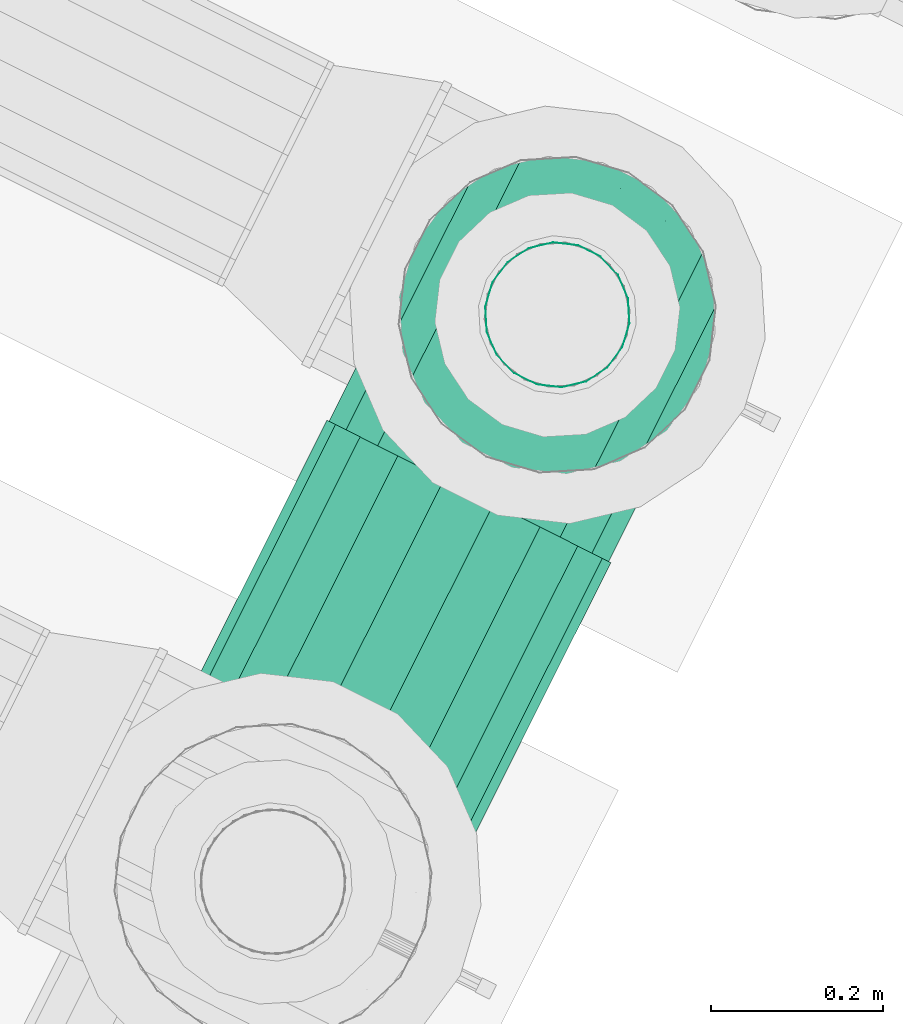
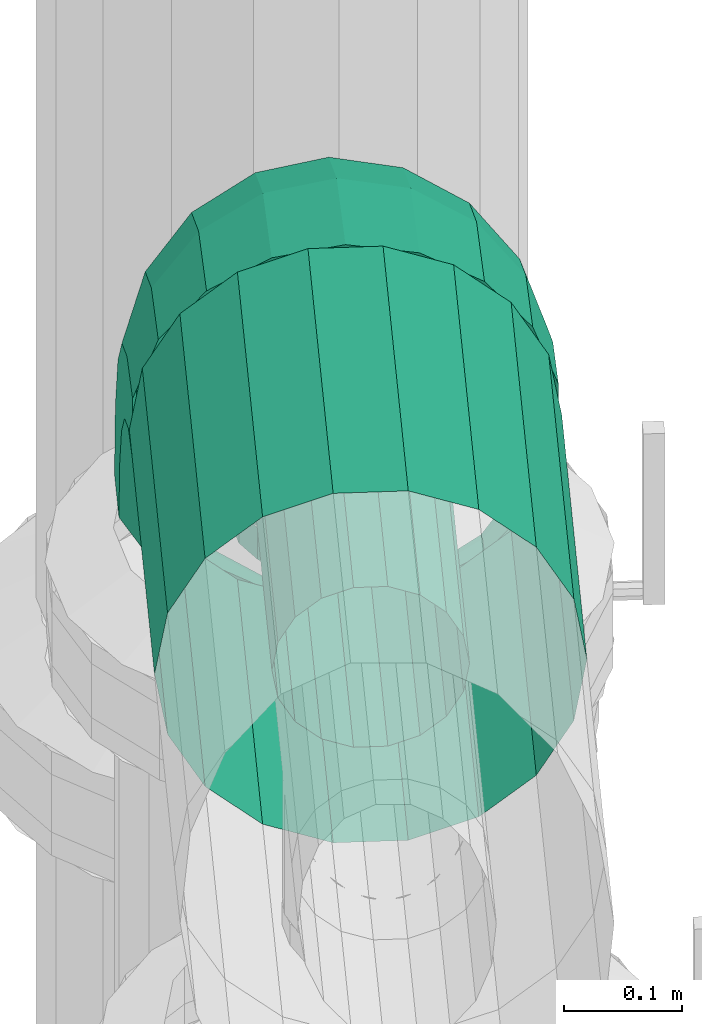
# One storey, part 136 of 152: 3 flow segments.
"""IFC2X3 building model written with IfcOpenShell, lengths in metres."""

from ifc_helpers import new_model, si_unit, derived_unit, direction, frame, origin, place, context, subcontext, project, spatial, face_set, surface_model, source, transform, mapped, material, type_object, type_shapes, element, save


model = new_model("IFC2X3")

# Units and contexts
model_context = context("Model", 3, precision=5.2338327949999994e-05, world=origin(), true_north=direction((0.0, 1.0)))
body_context = subcontext(model_context, "Body", "Model", "MODEL_VIEW")
ifc_project = project(units=[si_unit("LENGTHUNIT", "METRE"), si_unit("AREAUNIT", "SQUARE_METRE"), si_unit("VOLUMEUNIT", "CUBIC_METRE"), si_unit("MASSUNIT", "GRAM", prefix="KILO"), si_unit("PLANEANGLEUNIT", "RADIAN"), derived_unit("THERMALTRANSMITTANCEUNIT", [(si_unit("MASSUNIT", "GRAM", prefix="KILO"), 1), (si_unit("THERMODYNAMICTEMPERATUREUNIT", "KELVIN"), -1), (si_unit("TIMEUNIT", "SECOND"), -3)])], contexts=[model_context])

# Site, building, storey
site_placement = place(None, frame((0.0, 0.0, 0.0), z_axis=(0.0, 0.0, 1.0), x_axis=(0.8939966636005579, -0.4480736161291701, 0.0)))
site = spatial("IfcSite", under=ifc_project, at=site_placement, Name="Default", CompositionType="ELEMENT")
building_placement = place(site_placement, origin())
building = spatial("IfcBuilding", under=site, at=building_placement, CompositionType="ELEMENT")
storey_placement = place(building_placement, frame((0.0, 0.0, 2.7499999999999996)))
storey = spatial("IfcBuildingStorey", under=building, at=storey_placement, Name="1. Obergeschoss", CompositionType="ELEMENT", Elevation=2.7499999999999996)

# Flow segments
ifc_material = material(Name="IfcSurfaceStyle #9317")
distribution_element_type_1 = type_object("IfcDistributionElementType", Name="Rohrbogen 222471:Rohrbogen 222471", material=ifc_material)
shared_shape_1 = source(origin(), body_context, "Body", "SurfaceModel", [
    surface_model("IfcFaceBasedSurfaceModel", [(11.725814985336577, 7.411358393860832, 4.80664078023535), (11.69703399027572, 7.406283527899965, 4.80664078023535), (11.69703399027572, 7.391205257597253, 4.90184123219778), (11.725814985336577, 7.39603174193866, 4.903409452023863), (11.69703399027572, 7.3474464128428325, 4.9877228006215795), (11.725814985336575, 7.351552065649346, 4.9907057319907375), (11.697033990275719, 7.279290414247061, 5.055878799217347), (11.725814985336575, 7.28227334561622, 5.059984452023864), (11.697033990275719, 7.193408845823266, 5.099637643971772), (11.725814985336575, 7.194977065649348, 5.104464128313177), (11.69703399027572, 7.098208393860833, 5.114715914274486), (11.725814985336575, 7.0982083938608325, 5.119790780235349), (11.671724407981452, 7.3916710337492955, 4.80664078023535), (11.671724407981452, 7.377307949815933, 4.897325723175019), (11.671724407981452, 7.3356246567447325, 4.979133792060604), (11.671724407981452, 7.270701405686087, 5.04405704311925), (11.671724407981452, 7.188893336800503, 5.085740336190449), (11.671724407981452, 7.0982083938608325, 5.100103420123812), (11.652938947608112, 7.369283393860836, 4.80664078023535), (11.652938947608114, 7.356016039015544, 4.890407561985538), (11.652938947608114, 7.317512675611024, 4.965974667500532), (11.652938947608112, 7.257542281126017, 5.025945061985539), (11.652938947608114, 7.181975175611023, 5.06444842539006), (11.652938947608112, 7.0982083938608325, 5.077715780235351), (11.642943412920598, 7.341820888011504, 4.80664078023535), (11.642943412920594, 7.329897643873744, 4.881921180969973), (11.642943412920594, 7.295295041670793, 4.9498326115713), (11.642943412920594, 7.241400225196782, 5.003727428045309), (11.642943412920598, 7.173488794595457, 5.038330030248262), (11.642943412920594, 7.098208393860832, 5.05025327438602), (11.642943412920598, 7.312595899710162, 4.80664078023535), (11.642943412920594, 7.302103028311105, 4.872890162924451), (11.642943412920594, 7.271651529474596, 4.932654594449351), (11.642943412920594, 7.224222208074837, 4.980083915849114), (11.642943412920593, 7.164457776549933, 5.010535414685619), (11.642943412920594, 7.0982083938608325, 5.021028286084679), (11.652938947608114, 7.285133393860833, 4.80664078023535), (11.652938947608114, 7.275984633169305, 4.8644037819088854), (11.652938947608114, 7.249433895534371, 4.91651253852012), (11.652938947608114, 7.208080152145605, 4.957866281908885), (11.652938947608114, 7.155971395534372, 4.9844170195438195), (11.652938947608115, 7.098208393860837, 4.9935657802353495), (11.671724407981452, 7.262745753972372, 4.80664078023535), (11.671724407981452, 7.254692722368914, 4.857485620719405), (11.671724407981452, 7.231321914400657, 4.903353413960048), (11.671724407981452, 7.194921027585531, 4.9397543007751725), (11.671724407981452, 7.149053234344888, 4.963125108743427), (11.671724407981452, 7.098208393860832, 4.971178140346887), (11.69703399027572, 7.2481332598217, 4.80664078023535), (11.697033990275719, 7.240795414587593, 4.852970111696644), (11.697033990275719, 7.2195001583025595, 4.894764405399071), (11.697033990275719, 7.186332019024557, 4.927932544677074), (11.697033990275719, 7.144537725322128, 4.94922780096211), (11.69703399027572, 7.098208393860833, 4.956565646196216), (11.725814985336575, 7.243058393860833, 4.806640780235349), (11.725814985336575, 7.235968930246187, 4.851401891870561), (11.725814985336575, 7.215394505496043, 4.891781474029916), (11.725814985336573, 7.1833490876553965, 4.9238268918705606), (11.725814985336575, 7.142969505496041, 4.944401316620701), (11.725814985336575, 7.098208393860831, 4.951490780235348), (11.75459598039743, 7.248133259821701, 4.80664078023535), (11.75459598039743, 7.240795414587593, 4.852970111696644), (11.75459598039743, 7.2195001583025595, 4.894764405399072), (11.754595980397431, 7.186332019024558, 4.927932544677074), (11.75459598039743, 7.144537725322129, 4.949227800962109), (11.754595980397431, 7.098208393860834, 4.956565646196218), (11.779905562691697, 7.262745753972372, 4.80664078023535), (11.779905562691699, 7.254692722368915, 4.857485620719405), (11.779905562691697, 7.231321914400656, 4.903353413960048), (11.779905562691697, 7.194921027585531, 4.9397543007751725), (11.779905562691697, 7.149053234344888, 4.963125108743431), (11.779905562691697, 7.098208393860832, 4.971178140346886), (11.798691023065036, 7.28513339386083, 4.80664078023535), (11.798691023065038, 7.2759846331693, 4.8644037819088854), (11.798691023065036, 7.249433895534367, 4.916512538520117), (11.798691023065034, 7.2080801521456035, 4.957866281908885), (11.798691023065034, 7.15597139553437, 4.9844170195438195), (11.798691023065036, 7.098208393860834, 4.99356578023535), (11.808686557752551, 7.3125958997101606, 4.80664078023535), (11.808686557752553, 7.302103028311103, 4.872890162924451), (11.808686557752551, 7.271651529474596, 4.9326545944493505), (11.808686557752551, 7.224222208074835, 4.980083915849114), (11.808686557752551, 7.164457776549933, 5.010535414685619), (11.808686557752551, 7.098208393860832, 5.021028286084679), (11.808686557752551, 7.341820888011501, 4.80664078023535), (11.808686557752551, 7.329897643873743, 4.881921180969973), (11.808686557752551, 7.295295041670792, 4.9498326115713), (11.808686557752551, 7.24140022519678, 5.003727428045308), (11.808686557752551, 7.173488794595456, 5.03833003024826), (11.808686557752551, 7.098208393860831, 5.0502532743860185), (11.798691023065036, 7.369283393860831, 4.80664078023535), (11.798691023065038, 7.3560160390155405, 4.890407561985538), (11.798691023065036, 7.31751267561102, 4.965974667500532), (11.798691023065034, 7.257542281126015, 5.025945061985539), (11.798691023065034, 7.1819751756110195, 5.064448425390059), (11.798691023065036, 7.098208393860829, 5.077715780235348), (11.779905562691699, 7.3916710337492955, 4.80664078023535), (11.779905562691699, 7.377307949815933, 4.897325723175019), (11.779905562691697, 7.335624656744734, 4.979133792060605), (11.779905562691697, 7.270701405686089, 5.04405704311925), (11.779905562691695, 7.188893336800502, 5.085740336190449), (11.779905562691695, 7.0982083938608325, 5.100103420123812), (11.754595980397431, 7.406283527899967, 4.80664078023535), (11.754595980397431, 7.391205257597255, 4.90184123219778), (11.754595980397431, 7.347446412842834, 4.98772280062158), (11.754595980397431, 7.279290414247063, 5.055878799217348), (11.75459598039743, 7.193408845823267, 5.099637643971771), (11.75459598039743, 7.098208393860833, 5.114715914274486), (11.725814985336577, 7.511358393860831, 4.80664078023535), (11.662831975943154, 7.500252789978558, 4.80664078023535), (11.662831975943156, 7.4805753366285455, 4.9308793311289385), (11.725814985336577, 7.491137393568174, 4.934311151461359), (11.662831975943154, 7.423469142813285, 5.042956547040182), (11.725814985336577, 7.432453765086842, 5.049484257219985), (11.662831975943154, 7.334524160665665, 5.131901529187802), (11.725814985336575, 7.341051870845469, 5.140886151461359), (11.662831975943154, 7.222446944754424, 5.189007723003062), (11.725814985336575, 7.225878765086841, 5.199569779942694), (11.662831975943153, 7.098208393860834, 5.2086851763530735), (11.725814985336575, 7.098208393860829, 5.219790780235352), (11.607445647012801, 7.468275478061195, 4.80664078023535), (11.6074456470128, 7.450163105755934, 4.920997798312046), (11.6074456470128, 7.397598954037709, 5.024160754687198), (11.607445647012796, 7.315728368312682, 5.106031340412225), (11.607445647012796, 7.212565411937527, 5.15859549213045), (11.6074456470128, 7.098208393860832, 5.17670786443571), (11.56633640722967, 7.419283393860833, 4.80664078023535), (11.56633640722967, 7.4035688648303, 4.905858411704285), (11.566336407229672, 7.35796352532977, 4.995363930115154), (11.566336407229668, 7.28693154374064, 5.066395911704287), (11.566336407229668, 7.1974260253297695, 5.112001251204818), (11.566336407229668, 7.098208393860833, 5.127715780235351), (11.544462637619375, 7.359185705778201, 4.80664078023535), (11.544462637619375, 7.346412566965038, 4.887287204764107), (11.544462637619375, 7.309343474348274, 4.96003939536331), (11.544462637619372, 7.251607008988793, 5.01777586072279), (11.544462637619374, 7.178854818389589, 5.054844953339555), (11.544462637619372, 7.0982083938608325, 5.067618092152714), (11.544462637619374, 7.2952310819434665, 4.80664078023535), (11.544462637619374, 7.2855881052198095, 4.8675241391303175), (11.544462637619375, 7.257603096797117, 4.922447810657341), (11.544462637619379, 7.214015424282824, 4.966035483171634), (11.544462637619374, 7.1590917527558, 4.994020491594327), (11.544462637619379, 7.098208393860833, 5.003663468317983), (11.566336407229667, 7.235133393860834, 4.80664078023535), (11.566336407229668, 7.228431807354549, 4.848952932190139), (11.566336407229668, 7.208983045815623, 4.8871232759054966), (11.566336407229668, 7.17869088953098, 4.917415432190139), (11.566336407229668, 7.140520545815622, 4.936864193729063), (11.566336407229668, 7.0982083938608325, 4.943565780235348), (11.607445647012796, 7.186141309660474, 4.80664078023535), (11.607445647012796, 7.181837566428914, 4.833813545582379), (11.607445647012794, 7.169347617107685, 4.858326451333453), (11.607445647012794, 7.149894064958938, 4.877780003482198), (11.607445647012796, 7.125381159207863, 4.89026995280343), (11.6074456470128, 7.098208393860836, 4.894573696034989), (11.662831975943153, 7.154163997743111, 4.80664078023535), (11.66283197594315, 7.151425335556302, 4.823932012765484), (11.66283197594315, 7.143477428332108, 4.83953065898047), (11.66283197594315, 7.131098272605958, 4.851909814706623), (11.662831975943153, 7.115499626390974, 4.859857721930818), (11.662831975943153, 7.098208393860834, 4.862596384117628), (11.725814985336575, 7.14305839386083, 4.80664078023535), (11.725814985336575, 7.140863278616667, 4.820500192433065), (11.725814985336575, 7.134492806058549, 4.833002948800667), (11.725814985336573, 7.124570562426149, 4.842925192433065), (11.725814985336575, 7.1120678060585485, 4.849295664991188), (11.725814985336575, 7.098208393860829, 4.851490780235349), (11.788797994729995, 7.15416399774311, 4.80664078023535), (11.788797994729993, 7.151425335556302, 4.823932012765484), (11.788797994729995, 7.14347742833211, 4.839530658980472), (11.788797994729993, 7.131098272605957, 4.851909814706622), (11.788797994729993, 7.1154996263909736, 4.85985772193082), (11.788797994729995, 7.098208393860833, 4.8625963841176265), (11.844184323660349, 7.186141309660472, 4.806640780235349), (11.844184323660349, 7.181837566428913, 4.8338135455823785), (11.844184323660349, 7.169347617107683, 4.858326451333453), (11.844184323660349, 7.149894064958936, 4.877780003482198), (11.84418432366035, 7.125381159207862, 4.890269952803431), (11.844184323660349, 7.0982083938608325, 4.894573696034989), (11.885293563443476, 7.23513339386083, 4.80664078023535), (11.885293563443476, 7.2284318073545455, 4.848952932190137), (11.885293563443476, 7.208983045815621, 4.887123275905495), (11.885293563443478, 7.178690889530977, 4.917415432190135), (11.885293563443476, 7.140520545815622, 4.936864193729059), (11.885293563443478, 7.098208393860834, 4.943565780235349), (11.907167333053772, 7.295231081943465, 4.806640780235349), (11.907167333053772, 7.285588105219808, 4.8675241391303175), (11.907167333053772, 7.257603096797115, 4.922447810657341), (11.907167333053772, 7.214015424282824, 4.966035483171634), (11.907167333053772, 7.159091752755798, 4.994020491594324), (11.907167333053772, 7.0982083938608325, 5.003663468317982), (11.907167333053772, 7.3591857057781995, 4.80664078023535), (11.907167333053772, 7.346412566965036, 4.887287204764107), (11.907167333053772, 7.309343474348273, 4.96003939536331), (11.907167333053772, 7.251607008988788, 5.017775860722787), (11.907167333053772, 7.178854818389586, 5.054844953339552), (11.907167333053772, 7.098208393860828, 5.067618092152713), (11.885293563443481, 7.419283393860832, 4.80664078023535), (11.885293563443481, 7.403568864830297, 4.905858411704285), (11.885293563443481, 7.357963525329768, 4.995363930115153), (11.885293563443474, 7.286931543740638, 5.066395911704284), (11.885293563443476, 7.197426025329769, 5.112001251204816), (11.885293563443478, 7.0982083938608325, 5.127715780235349), (11.84418432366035, 7.468275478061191, 4.806640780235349), (11.84418432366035, 7.450163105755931, 4.920997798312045), (11.84418432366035, 7.397598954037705, 5.024160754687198), (11.84418432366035, 7.315728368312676, 5.106031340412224), (11.84418432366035, 7.212565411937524, 5.158595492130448), (11.84418432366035, 7.098208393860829, 5.176707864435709), (11.788797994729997, 7.500252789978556, 4.80664078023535), (11.788797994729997, 7.480575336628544, 4.9308793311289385), (11.788797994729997, 7.423469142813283, 5.042956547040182), (11.788797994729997, 7.334524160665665, 5.131901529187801), (11.788797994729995, 7.222446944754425, 5.189007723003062), (11.788797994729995, 7.098208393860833, 5.208685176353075)], [face_set([[[0, 1, 2, 3]], [[3, 2, 4, 5]], [[5, 4, 6, 7]], [[7, 6, 8, 9]], [[9, 8, 10, 11]], [[1, 12, 13, 2]], [[2, 13, 14, 4]], [[4, 14, 15, 6]], [[6, 15, 16, 8]], [[8, 16, 17, 10]], [[12, 18, 19, 13]], [[13, 19, 20, 14]], [[14, 20, 21, 15]], [[15, 21, 22, 16]], [[16, 22, 23, 17]], [[18, 24, 25, 19]], [[19, 25, 26, 20]], [[20, 26, 27, 21]], [[21, 27, 28, 22]], [[22, 28, 29, 23]], [[24, 30, 31, 25]], [[25, 31, 32, 26]], [[26, 32, 33, 27]], [[27, 33, 34, 28]], [[28, 34, 35, 29]], [[30, 36, 37, 31]], [[31, 37, 38, 32]], [[32, 38, 39, 33]], [[33, 39, 40, 34]], [[34, 40, 41, 35]], [[36, 42, 43, 37]], [[37, 43, 44, 38]], [[38, 44, 45, 39]], [[39, 45, 46, 40]], [[40, 46, 47, 41]], [[42, 48, 49, 43]], [[43, 49, 50, 44]], [[44, 50, 51, 45]], [[45, 51, 52, 46]], [[46, 52, 53, 47]], [[48, 54, 55, 49]], [[49, 55, 56, 50]], [[50, 56, 57, 51]], [[51, 57, 58, 52]], [[52, 58, 59, 53]], [[54, 60, 61, 55]], [[55, 61, 62, 56]], [[56, 62, 63, 57]], [[57, 63, 64, 58]], [[58, 64, 65, 59]], [[60, 66, 67, 61]], [[61, 67, 68, 62]], [[62, 68, 69, 63]], [[63, 69, 70, 64]], [[64, 70, 71, 65]], [[66, 72, 73, 67]], [[67, 73, 74, 68]], [[68, 74, 75, 69]], [[69, 75, 76, 70]], [[70, 76, 77, 71]], [[72, 78, 79, 73]], [[73, 79, 80, 74]], [[74, 80, 81, 75]], [[75, 81, 82, 76]], [[76, 82, 83, 77]], [[78, 84, 85, 79]], [[79, 85, 86, 80]], [[80, 86, 87, 81]], [[81, 87, 88, 82]], [[82, 88, 89, 83]], [[84, 90, 91, 85]], [[85, 91, 92, 86]], [[86, 92, 93, 87]], [[87, 93, 94, 88]], [[88, 94, 95, 89]], [[90, 96, 97, 91]], [[91, 97, 98, 92]], [[92, 98, 99, 93]], [[93, 99, 100, 94]], [[94, 100, 101, 95]], [[96, 102, 103, 97]], [[97, 103, 104, 98]], [[98, 104, 105, 99]], [[99, 105, 106, 100]], [[100, 106, 107, 101]], [[102, 0, 3, 103]], [[103, 3, 5, 104]], [[104, 5, 7, 105]], [[105, 7, 9, 106]], [[106, 9, 11, 107]], [[108, 109, 110, 111]], [[111, 110, 112, 113]], [[113, 112, 114, 115]], [[115, 114, 116, 117]], [[117, 116, 118, 119]], [[109, 120, 121, 110]], [[110, 121, 122, 112]], [[112, 122, 123, 114]], [[114, 123, 124, 116]], [[116, 124, 125, 118]], [[120, 126, 127, 121]], [[121, 127, 128, 122]], [[122, 128, 129, 123]], [[123, 129, 130, 124]], [[124, 130, 131, 125]], [[126, 132, 133, 127]], [[127, 133, 134, 128]], [[128, 134, 135, 129]], [[129, 135, 136, 130]], [[130, 136, 137, 131]], [[132, 138, 139, 133]], [[133, 139, 140, 134]], [[134, 140, 141, 135]], [[135, 141, 142, 136]], [[136, 142, 143, 137]], [[138, 144, 145, 139]], [[139, 145, 146, 140]], [[140, 146, 147, 141]], [[141, 147, 148, 142]], [[142, 148, 149, 143]], [[144, 150, 151, 145]], [[145, 151, 152, 146]], [[146, 152, 153, 147]], [[147, 153, 154, 148]], [[148, 154, 155, 149]], [[150, 156, 157, 151]], [[151, 157, 158, 152]], [[152, 158, 159, 153]], [[153, 159, 160, 154]], [[154, 160, 161, 155]], [[156, 162, 163, 157]], [[157, 163, 164, 158]], [[158, 164, 165, 159]], [[159, 165, 166, 160]], [[160, 166, 167, 161]], [[162, 168, 169, 163]], [[163, 169, 170, 164]], [[164, 170, 171, 165]], [[165, 171, 172, 166]], [[166, 172, 173, 167]], [[168, 174, 175, 169]], [[169, 175, 176, 170]], [[170, 176, 177, 171]], [[171, 177, 178, 172]], [[172, 178, 179, 173]], [[174, 180, 181, 175]], [[175, 181, 182, 176]], [[176, 182, 183, 177]], [[177, 183, 184, 178]], [[178, 184, 185, 179]], [[180, 186, 187, 181]], [[181, 187, 188, 182]], [[182, 188, 189, 183]], [[183, 189, 190, 184]], [[184, 190, 191, 185]], [[186, 192, 193, 187]], [[187, 193, 194, 188]], [[188, 194, 195, 189]], [[189, 195, 196, 190]], [[190, 196, 197, 191]], [[192, 198, 199, 193]], [[193, 199, 200, 194]], [[194, 200, 201, 195]], [[195, 201, 202, 196]], [[196, 202, 203, 197]], [[198, 204, 205, 199]], [[199, 205, 206, 200]], [[200, 206, 207, 201]], [[201, 207, 208, 202]], [[202, 208, 209, 203]], [[204, 210, 211, 205]], [[205, 211, 212, 206]], [[206, 212, 213, 207]], [[207, 213, 214, 208]], [[208, 214, 215, 209]], [[210, 108, 111, 211]], [[211, 111, 113, 212]], [[212, 113, 115, 213]], [[213, 115, 117, 214]], [[214, 117, 119, 215]]])]),
])
type_shapes(distribution_element_type_1, [shared_shape_1])
flow_segment_1_placement = place(storey_placement, frame((0.0, 0.0, -2.7499999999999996)))
element("IfcFlowSegment", 1, at=flow_segment_1_placement, inside=storey, type_object=distribution_element_type_1, material=ifc_material, Name="Rohrbogen", ObjectType="Rohrbogen", context=body_context, shape_type="MappedRepresentation", body=[
    mapped(shared_shape_1, transform((0.0, 0.0, 0.0), scale=1.0)),
])
distribution_element_type_2 = type_object("IfcDistributionElementType", Name="Stahlrohr nach DIN 2448 222500:Stahlrohr nach DIN 2448 222500", material=ifc_material)
shared_shape_2 = source(origin(), body_context, "Body", "SurfaceModel", [
    surface_model("IfcFaceBasedSurfaceModel", [(11.809964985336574, 6.734748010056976, 5.035640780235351), (11.80489011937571, 6.734748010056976, 5.006859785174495), (11.80489011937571, 7.0982083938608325, 5.006859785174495), (11.809964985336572, 7.0982083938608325, 5.035640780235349), (11.790277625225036, 6.734748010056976, 4.981550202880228), (11.790277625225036, 7.0982083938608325, 4.981550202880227), (11.767889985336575, 6.734748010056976, 4.96276474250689), (11.767889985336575, 7.0982083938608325, 4.962764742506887), (11.740427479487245, 6.734748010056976, 4.952769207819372), (11.740427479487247, 7.0982083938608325, 4.952769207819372), (11.711202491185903, 6.734748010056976, 4.952769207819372), (11.711202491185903, 7.0982083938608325, 4.952769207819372), (11.683739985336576, 6.734748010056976, 4.962764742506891), (11.683739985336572, 7.0982083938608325, 4.962764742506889), (11.661352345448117, 6.734748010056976, 4.981550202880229), (11.661352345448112, 7.0982083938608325, 4.981550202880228), (11.646739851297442, 6.734748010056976, 5.0068597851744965), (11.646739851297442, 7.0982083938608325, 5.006859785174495), (11.641664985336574, 6.734748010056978, 5.035640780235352), (11.641664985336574, 7.0982083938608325, 5.03564078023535), (11.646739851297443, 6.734748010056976, 5.064421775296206), (11.646739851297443, 7.0982083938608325, 5.064421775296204), (11.661352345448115, 6.734748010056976, 5.089731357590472), (11.661352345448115, 7.0982083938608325, 5.0897313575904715), (11.683739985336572, 6.734748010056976, 5.108516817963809), (11.683739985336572, 7.0982083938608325, 5.108516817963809), (11.711202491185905, 6.734748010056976, 5.118512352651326), (11.711202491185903, 7.0982083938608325, 5.118512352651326), (11.740427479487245, 6.734748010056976, 5.118512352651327), (11.740427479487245, 7.0982083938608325, 5.118512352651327), (11.767889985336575, 6.734748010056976, 5.108516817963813), (11.767889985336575, 7.0982083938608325, 5.10851681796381), (11.790277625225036, 6.734748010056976, 5.089731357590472), (11.790277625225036, 7.0982083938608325, 5.0897313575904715), (11.804890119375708, 6.734748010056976, 5.064421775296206), (11.804890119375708, 7.0982083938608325, 5.064421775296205), (11.909964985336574, 6.734748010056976, 5.035640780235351), (11.8988593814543, 6.734748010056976, 4.9726577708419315), (11.898859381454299, 7.0982083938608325, 4.972657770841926), (11.909964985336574, 7.0982083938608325, 5.035640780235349), (11.866882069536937, 6.734748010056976, 4.917271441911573), (11.866882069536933, 7.0982083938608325, 4.917271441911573), (11.817889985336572, 6.734748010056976, 4.876162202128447), (11.817889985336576, 7.0982083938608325, 4.876162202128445), (11.75779229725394, 6.734748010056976, 4.854288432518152), (11.75779229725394, 7.0982083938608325, 4.854288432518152), (11.693837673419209, 6.734748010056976, 4.8542884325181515), (11.693837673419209, 7.0982083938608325, 4.8542884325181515), (11.633739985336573, 6.734748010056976, 4.876162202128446), (11.633739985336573, 7.0982083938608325, 4.876162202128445), (11.584747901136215, 6.734748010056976, 4.917271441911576), (11.584747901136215, 7.0982083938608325, 4.917271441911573), (11.552770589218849, 6.734748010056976, 4.972657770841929), (11.552770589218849, 7.0982083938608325, 4.972657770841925), (11.541664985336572, 6.734748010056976, 5.035640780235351), (11.541664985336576, 7.0982083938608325, 5.035640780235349), (11.552770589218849, 6.734748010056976, 5.098623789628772), (11.552770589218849, 7.0982083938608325, 5.098623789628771), (11.584747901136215, 6.734748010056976, 5.154010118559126), (11.584747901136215, 7.0982083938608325, 5.154010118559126), (11.633739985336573, 6.734748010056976, 5.1951193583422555), (11.633739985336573, 7.0982083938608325, 5.195119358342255), (11.69383767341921, 6.734748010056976, 5.216993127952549), (11.693837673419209, 7.0982083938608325, 5.216993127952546), (11.75779229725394, 6.734748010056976, 5.2169931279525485), (11.75779229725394, 7.0982083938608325, 5.216993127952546), (11.817889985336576, 6.734748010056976, 5.195119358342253), (11.817889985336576, 7.0982083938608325, 5.195119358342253), (11.866882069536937, 6.734748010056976, 5.1540101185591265), (11.866882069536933, 7.0982083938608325, 5.154010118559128), (11.898859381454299, 6.734748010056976, 5.098623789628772), (11.898859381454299, 7.0982083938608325, 5.098623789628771)], [face_set([[[0, 1, 2, 3]], [[1, 4, 5, 2]], [[4, 6, 7, 5]], [[6, 8, 9, 7]], [[8, 10, 11, 9]], [[10, 12, 13, 11]], [[12, 14, 15, 13]], [[14, 16, 17, 15]], [[16, 18, 19, 17]], [[18, 20, 21, 19]], [[20, 22, 23, 21]], [[22, 24, 25, 23]], [[24, 26, 27, 25]], [[26, 28, 29, 27]], [[28, 30, 31, 29]], [[30, 32, 33, 31]], [[32, 34, 35, 33]], [[34, 0, 3, 35]], [[36, 37, 38, 39]], [[37, 40, 41, 38]], [[40, 42, 43, 41]], [[42, 44, 45, 43]], [[44, 46, 47, 45]], [[46, 48, 49, 47]], [[48, 50, 51, 49]], [[50, 52, 53, 51]], [[52, 54, 55, 53]], [[54, 56, 57, 55]], [[56, 58, 59, 57]], [[58, 60, 61, 59]], [[60, 62, 63, 61]], [[62, 64, 65, 63]], [[64, 66, 67, 65]], [[66, 68, 69, 67]], [[68, 70, 71, 69]], [[70, 36, 39, 71]]])]),
])
type_shapes(distribution_element_type_2, [shared_shape_2])
flow_segment_2_placement = place(storey_placement, frame((0.0, 0.0, -2.7499999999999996)))
element("IfcFlowSegment", 2, at=flow_segment_2_placement, inside=storey, type_object=distribution_element_type_2, material=ifc_material, Name="Stahlrohr nach DIN 2448", ObjectType="Stahlrohr nach DIN 2448", context=body_context, shape_type="MappedRepresentation", body=[
    mapped(shared_shape_2, transform((0.0, 0.0, 0.0), scale=1.0)),
])
distribution_element_type_3 = type_object("IfcDistributionElementType", Name="Stahlrohr nach DIN 2448 249099:Stahlrohr nach DIN 2448 249099", material=ifc_material)
shared_shape_3 = source(origin(), body_context, "Body", "SurfaceModel", [
    surface_model("IfcFaceBasedSurfaceModel", [(11.641664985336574, 7.3272083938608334, 4.80664078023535), (11.646739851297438, 7.355989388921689, 4.80664078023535), (11.646739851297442, 7.35598938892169, 4.773303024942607), (11.641664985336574, 7.3272083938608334, 4.773303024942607), (11.661352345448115, 7.381298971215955, 4.80664078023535), (11.661352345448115, 7.381298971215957, 4.773303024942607), (11.683739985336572, 7.400084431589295, 4.80664078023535), (11.68373998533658, 7.400084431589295, 4.773303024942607), (11.711202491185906, 7.410079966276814, 4.80664078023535), (11.711202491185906, 7.410079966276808, 4.773303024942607), (11.740427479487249, 7.410079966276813, 4.80664078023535), (11.74042747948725, 7.410079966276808, 4.773303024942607), (11.767889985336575, 7.4000844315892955, 4.80664078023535), (11.767889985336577, 7.40008443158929, 4.773303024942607), (11.790277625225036, 7.3812989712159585, 4.80664078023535), (11.79027762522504, 7.381298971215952, 4.773303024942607), (11.80489011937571, 7.355989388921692, 4.80664078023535), (11.80489011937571, 7.355989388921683, 4.773303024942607), (11.80996498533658, 7.327208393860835, 4.806640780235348), (11.809964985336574, 7.327208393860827, 4.773303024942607), (11.80489011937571, 7.298427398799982, 4.80664078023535), (11.80489011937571, 7.298427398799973, 4.773303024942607), (11.790277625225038, 7.273117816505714, 4.80664078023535), (11.790277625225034, 7.273117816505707, 4.773303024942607), (11.767889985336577, 7.254332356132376, 4.80664078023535), (11.767889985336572, 7.254332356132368, 4.773303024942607), (11.740427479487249, 7.244336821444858, 4.80664078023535), (11.74042747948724, 7.244336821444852, 4.773303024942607), (11.711202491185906, 7.2443368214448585, 4.80664078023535), (11.711202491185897, 7.244336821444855, 4.773303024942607), (11.683739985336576, 7.254332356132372, 4.80664078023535), (11.68373998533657, 7.254332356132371, 4.773303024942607), (11.661352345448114, 7.27311781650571, 4.80664078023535), (11.661352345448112, 7.27311781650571, 4.773303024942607), (11.646739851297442, 7.298427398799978, 4.80664078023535), (11.646739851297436, 7.298427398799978, 4.773303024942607)], [face_set([[[0, 1, 2, 3]], [[1, 4, 5, 2]], [[4, 6, 7, 5]], [[6, 8, 9, 7]], [[8, 10, 11, 9]], [[10, 12, 13, 11]], [[12, 14, 15, 13]], [[14, 16, 17, 15]], [[16, 18, 19, 17]], [[18, 20, 21, 19]], [[20, 22, 23, 21]], [[22, 24, 25, 23]], [[24, 26, 27, 25]], [[26, 28, 29, 27]], [[28, 30, 31, 29]], [[30, 32, 33, 31]], [[32, 34, 35, 33]], [[34, 0, 3, 35]]])]),
])
type_shapes(distribution_element_type_3, [shared_shape_3])
flow_segment_3_placement = place(storey_placement, frame((0.0, 0.0, -2.7499999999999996)))
element("IfcFlowSegment", 3, at=flow_segment_3_placement, inside=storey, type_object=distribution_element_type_3, material=ifc_material, Name="Stahlrohr nach DIN 2448", ObjectType="Stahlrohr nach DIN 2448", context=body_context, shape_type="MappedRepresentation", body=[
    mapped(shared_shape_3, transform((0.0, 0.0, 0.0), scale=1.0)),
])

save(model, "model.ifc")
